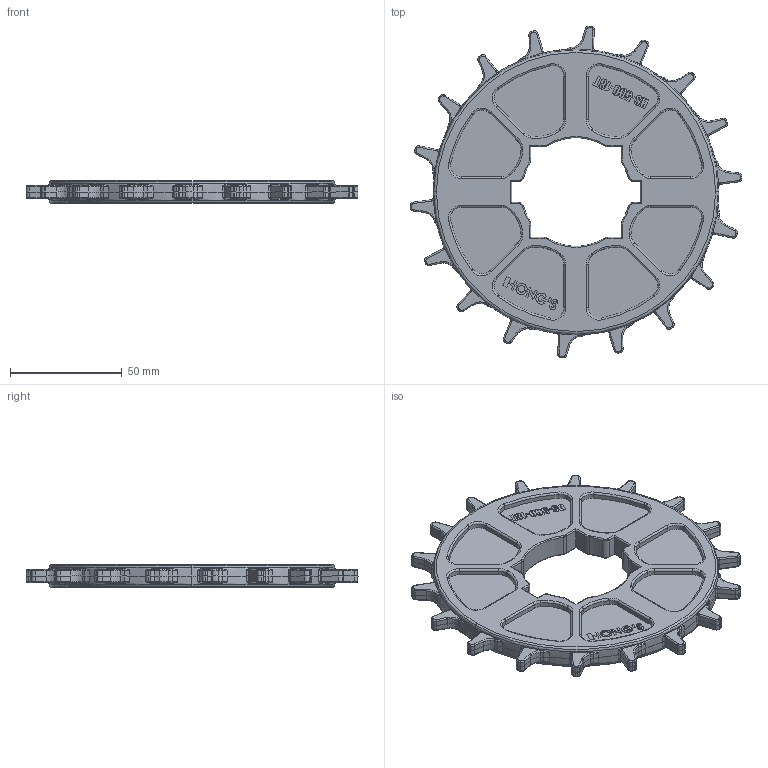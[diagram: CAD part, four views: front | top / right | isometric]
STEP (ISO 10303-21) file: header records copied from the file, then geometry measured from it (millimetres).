
FILE_DESCRIPTION (( 'STEP AP203' ), '1' );
FILE_NAME ('HS-500-18T-S40.STEP', '2023-06-25T05:35:35', ( 'PC' ), ( 'Microsoft' ), 'SwSTEP 2.0', 'SolidWorks 2018', '' );
FILE_SCHEMA (( 'CONFIG_CONTROL_DESIGN' ));
Products named in the file (1): HS-500-18T-S40
Bounding box: 148.38 x 148.44 x 10.2 mm (x, y, z)
Volume: 84395.9 mm3; surface area: 34478 mm2
Topology: 1 solids, 1 shells, 1373 faces, 3289 edges, 1960 vertices
Faces by surface type: cylinder 470, plane 327, bspline 284, torus 180, cone 112
Entity records: 49904 total; most frequent: CARTESIAN_POINT 20795, ORIENTED_EDGE 6578, DIRECTION 5303, EDGE_CURVE 3289, AXIS2_PLACEMENT_3D 2068, VERTEX_POINT 1960, EDGE_LOOP 1417, FACE_OUTER_BOUND 1373
